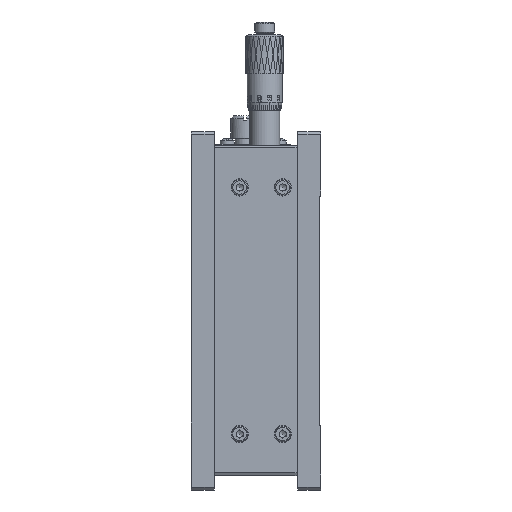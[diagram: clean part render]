
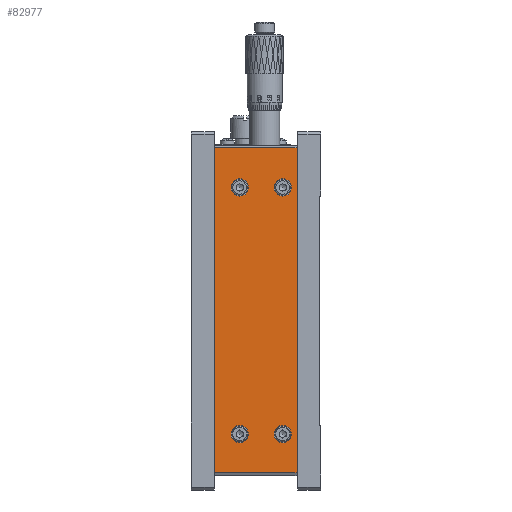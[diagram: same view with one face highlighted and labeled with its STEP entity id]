
A CAD part, left-side view. The second image highlights one B-rep face of the part: STEP entity #82977.
In plain terms, the highlighted planar face has unit normal (-1, 0, 0).
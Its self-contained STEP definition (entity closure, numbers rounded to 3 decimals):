
#2572 = CARTESIAN_POINT ( 'NONE',  ( 22.266, 36.157, 51.448 ) ) ;
#3090 = VERTEX_POINT ( 'NONE', #28966 ) ;
#5118 = AXIS2_PLACEMENT_3D ( 'NONE', #35744, #67972, #34912 ) ;
#5943 = FACE_BOUND ( 'NONE', #64270, .T. ) ;
#6298 = CARTESIAN_POINT ( 'NONE',  ( 22.266, 51.157, -31.552 ) ) ;
#6374 = ORIENTED_EDGE ( 'NONE', *, *, #41331, .T. ) ;
#7764 = CIRCLE ( 'NONE', #37645, 3. ) ;
#7955 = CARTESIAN_POINT ( 'NONE',  ( 22.266, 59.957, -46.052 ) ) ;
#10933 = DIRECTION ( 'NONE',  ( 0., 0., -1. ) ) ;
#12729 = DIRECTION ( 'NONE',  ( 0., 0., 1. ) ) ;
#15160 = LINE ( 'NONE', #7955, #78125 ) ;
#16271 = AXIS2_PLACEMENT_3D ( 'NONE', #45668, #44405, #76658 ) ;
#16999 = LINE ( 'NONE', #22525, #65590 ) ;
#18565 = CARTESIAN_POINT ( 'NONE',  ( 22.266, 51.157, 54.448 ) ) ;
#18901 = CARTESIAN_POINT ( 'NONE',  ( 22.266, 31.157, 68.371 ) ) ;
#19008 = CARTESIAN_POINT ( 'NONE',  ( 22.266, 31.157, -46.052 ) ) ;
#19478 = VERTEX_POINT ( 'NONE', #51320 ) ;
#22198 = EDGE_CURVE ( 'NONE', #60694, #60694, #78300, .T. ) ;
#22215 = EDGE_LOOP ( 'NONE', ( #80287, #6374, #39478, #51191 ) ) ;
#22525 = CARTESIAN_POINT ( 'NONE',  ( 22.266, 31.157, -45.052 ) ) ;
#24290 = CARTESIAN_POINT ( 'NONE',  ( 22.266, 31.157, -45.052 ) ) ;
#25727 = VECTOR ( 'NONE', #45331, 1000. ) ;
#28966 = CARTESIAN_POINT ( 'NONE',  ( 22.266, 51.157, -34.552 ) ) ;
#32181 = ORIENTED_EDGE ( 'NONE', *, *, #54559, .F. ) ;
#34912 = DIRECTION ( 'NONE',  ( 0., 0., -1. ) ) ;
#35744 = CARTESIAN_POINT ( 'NONE',  ( 22.266, 36.157, 54.448 ) ) ;
#37372 = DIRECTION ( 'NONE',  ( 1., 0., 0. ) ) ;
#37645 = AXIS2_PLACEMENT_3D ( 'NONE', #18565, #68644, #10933 ) ;
#37843 = VERTEX_POINT ( 'NONE', #62046 ) ;
#39478 = ORIENTED_EDGE ( 'NONE', *, *, #70303, .F. ) ;
#41059 = DIRECTION ( 'NONE',  ( 0., 0., -1. ) ) ;
#41331 = EDGE_CURVE ( 'NONE', #56903, #45407, #16999, .T. ) ;
#41790 = VECTOR ( 'NONE', #82980, 1000. ) ;
#41964 = CARTESIAN_POINT ( 'NONE',  ( 22.266, 31.157, 68.371 ) ) ;
#44405 = DIRECTION ( 'NONE',  ( -1., 0., 0. ) ) ;
#45331 = DIRECTION ( 'NONE',  ( 0., 0., -1. ) ) ;
#45407 = VERTEX_POINT ( 'NONE', #24290 ) ;
#45668 = CARTESIAN_POINT ( 'NONE',  ( 22.266, 36.157, -31.552 ) ) ;
#48995 = EDGE_CURVE ( 'NONE', #80545, #56903, #15160, .T. ) ;
#51191 = ORIENTED_EDGE ( 'NONE', *, *, #67938, .T. ) ;
#51261 = CARTESIAN_POINT ( 'NONE',  ( 22.266, 59.957, -45.052 ) ) ;
#51320 = CARTESIAN_POINT ( 'NONE',  ( 22.266, 36.157, -34.552 ) ) ;
#51360 = FACE_BOUND ( 'NONE', #52556, .T. ) ;
#51788 = FACE_OUTER_BOUND ( 'NONE', #22215, .T. ) ;
#52015 = EDGE_CURVE ( 'NONE', #3090, #3090, #70177, .T. ) ;
#52556 = EDGE_LOOP ( 'NONE', ( #54594 ) ) ;
#54559 = EDGE_CURVE ( 'NONE', #37843, #37843, #7764, .T. ) ;
#54594 = ORIENTED_EDGE ( 'NONE', *, *, #73597, .F. ) ;
#56481 = DIRECTION ( 'NONE',  ( 0., -1., 0. ) ) ;
#56903 = VERTEX_POINT ( 'NONE', #51261 ) ;
#57313 = FACE_BOUND ( 'NONE', #68955, .T. ) ;
#57533 = LINE ( 'NONE', #18901, #41790 ) ;
#60694 = VERTEX_POINT ( 'NONE', #2572 ) ;
#62046 = CARTESIAN_POINT ( 'NONE',  ( 22.266, 51.157, 51.448 ) ) ;
#63611 = DIRECTION ( 'NONE',  ( -1., 0., 0. ) ) ;
#64015 = ORIENTED_EDGE ( 'NONE', *, *, #22198, .F. ) ;
#64270 = EDGE_LOOP ( 'NONE', ( #82586 ) ) ;
#64775 = CARTESIAN_POINT ( 'NONE',  ( 22.266, 59.957, 68.371 ) ) ;
#64840 = LINE ( 'NONE', #19008, #25727 ) ;
#65590 = VECTOR ( 'NONE', #56481, 1000. ) ;
#66595 = AXIS2_PLACEMENT_3D ( 'NONE', #83600, #37372, #12729 ) ;
#67938 = EDGE_CURVE ( 'NONE', #70091, #80545, #57533, .T. ) ;
#67972 = DIRECTION ( 'NONE',  ( -1., 0., 0. ) ) ;
#68644 = DIRECTION ( 'NONE',  ( -1., 0., 0. ) ) ;
#68955 = EDGE_LOOP ( 'NONE', ( #32181 ) ) ;
#69162 = CIRCLE ( 'NONE', #16271, 3. ) ;
#70091 = VERTEX_POINT ( 'NONE', #41964 ) ;
#70177 = CIRCLE ( 'NONE', #75583, 3. ) ;
#70303 = EDGE_CURVE ( 'NONE', #70091, #45407, #64840, .T. ) ;
#71215 = DIRECTION ( 'NONE',  ( 0., 0., -1. ) ) ;
#73597 = EDGE_CURVE ( 'NONE', #19478, #19478, #69162, .T. ) ;
#74127 = EDGE_LOOP ( 'NONE', ( #64015 ) ) ;
#75583 = AXIS2_PLACEMENT_3D ( 'NONE', #6298, #63611, #71215 ) ;
#76411 = PLANE ( 'NONE',  #66595 ) ;
#76658 = DIRECTION ( 'NONE',  ( 0., 0., -1. ) ) ;
#78125 = VECTOR ( 'NONE', #41059, 1000. ) ;
#78300 = CIRCLE ( 'NONE', #5118, 3. ) ;
#80287 = ORIENTED_EDGE ( 'NONE', *, *, #48995, .T. ) ;
#80545 = VERTEX_POINT ( 'NONE', #64775 ) ;
#82586 = ORIENTED_EDGE ( 'NONE', *, *, #52015, .F. ) ;
#82977 = ADVANCED_FACE ( 'NONE', ( #51360, #5943, #57313, #83173, #51788 ), #76411, .F. ) ;
#82980 = DIRECTION ( 'NONE',  ( 0., 1., 0. ) ) ;
#83173 = FACE_BOUND ( 'NONE', #74127, .T. ) ;
#83600 = CARTESIAN_POINT ( 'NONE',  ( 22.266, 31.157, -46.052 ) ) ;
